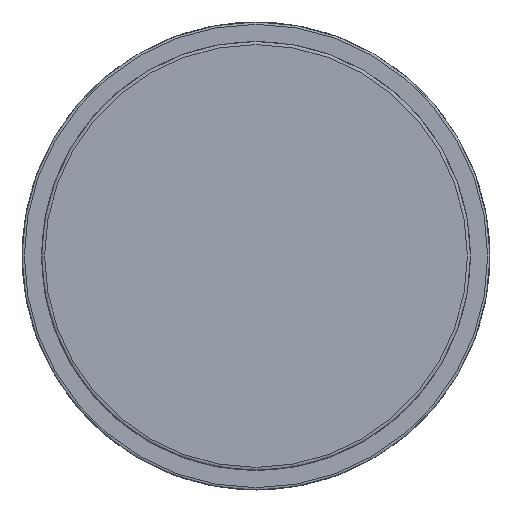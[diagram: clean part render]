
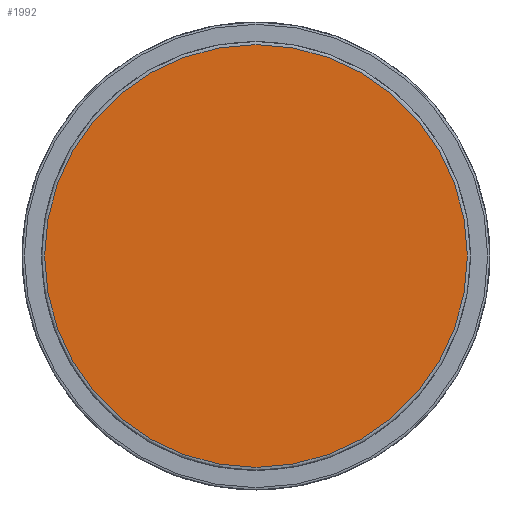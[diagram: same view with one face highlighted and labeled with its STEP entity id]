
A CAD part, left-side view. The second image highlights one B-rep face of the part: STEP entity #1992.
In plain terms, the highlighted planar face has unit normal (-1, 0, 0).
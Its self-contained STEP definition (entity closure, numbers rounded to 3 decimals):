
#1967=CARTESIAN_POINT('',(-526.608,-554.11,66.022));
#1968=DIRECTION('',(-1.0,0.0,0.0));
#1969=DIRECTION('',(0.0,1.0,0.0));
#1970=AXIS2_PLACEMENT_3D('',#1967,#1968,#1969);
#1971=PLANE('',#1970);
#1972=CARTESIAN_POINT('',(-526.608,-433.909,0.022));
#1973=VERTEX_POINT('',#1972);
#1974=CARTESIAN_POINT('',(-526.608,-542.309,0.022));
#1975=VERTEX_POINT('',#1974);
#1976=CARTESIAN_POINT('',(-526.608,-488.109,0.022));
#1977=DIRECTION('',(-1.0,0.0,0.0));
#1978=DIRECTION('',(0.0,1.0,0.0));
#1979=AXIS2_PLACEMENT_3D('',#1976,#1977,#1978);
#1980=CIRCLE('',#1979,54.2);
#1981=EDGE_CURVE('',#1973,#1975,#1980,.T.);
#1982=ORIENTED_EDGE('',*,*,#1981,.T.);
#1983=CARTESIAN_POINT('',(-526.608,-488.109,0.022));
#1984=DIRECTION('',(-1.0,0.0,0.0));
#1985=DIRECTION('',(0.0,1.0,0.0));
#1986=AXIS2_PLACEMENT_3D('',#1983,#1984,#1985);
#1987=CIRCLE('',#1986,54.2);
#1988=EDGE_CURVE('',#1975,#1973,#1987,.T.);
#1989=ORIENTED_EDGE('',*,*,#1988,.T.);
#1990=EDGE_LOOP('',(#1982,#1989));
#1991=FACE_OUTER_BOUND('',#1990,.T.);
#1992=ADVANCED_FACE('',(#1991),#1971,.T.);
